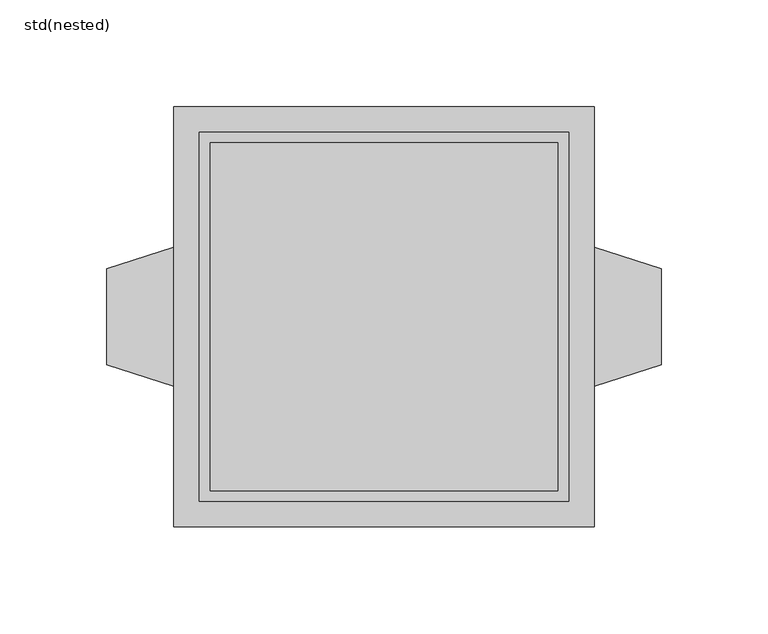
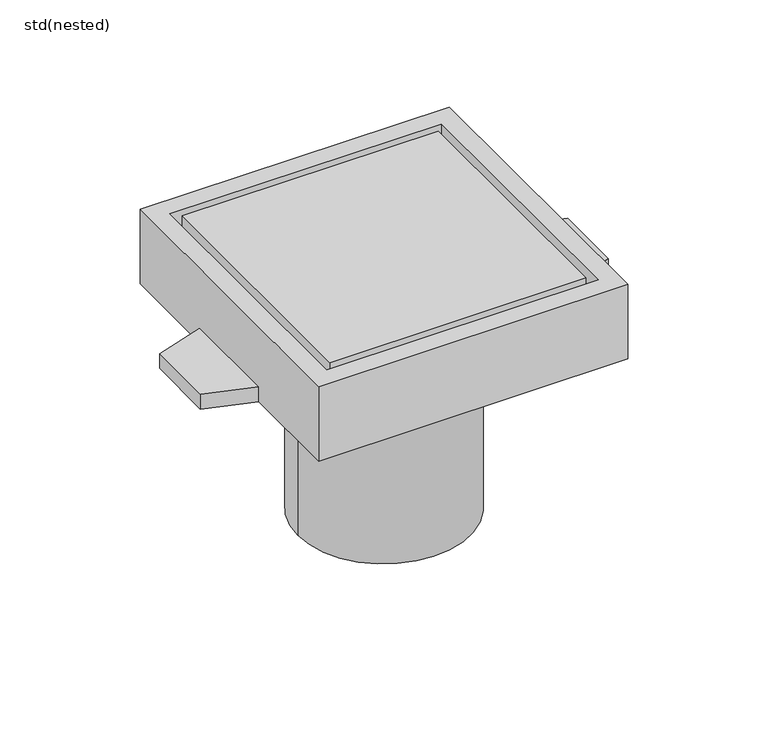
"""IFC4 building model written with IfcOpenShell, lengths in millimetres: sanitary terminal geometry, ZZZ_do not use_PF_ST_Finor castiron square_ACO : std(nested)."""

from ifc_helpers import new_model, si_unit, frame, origin, place, context, project, spatial, polyline, circle_curve, outline, extrude, source, transform, mapped, element, save
from ifc_brep_helpers import plane_surface, cylinder_surface, revolved_surface, advanced_brep


def std_nested_2815c56d(model_context):
    return source(origin(), model_context, "Body", "SolidModel", [
        extrude(outline(polyline([(81.5, 81.5), (81.5, -81.5), (-81.5, -81.5), (-81.5, 81.5), (81.5, 81.5)])), frame((0.0, 0.0, -22.0), z_axis=(0.0, 0.0, 1.0), x_axis=(1.0, 0.0, 0.0)), (0.0, 0.0, 1.0), 22.0),
        advanced_brep(
        [(98.5, -98.5, -50.0), (-98.5, -98.5, -50.0), (-98.5, -32.5, -50.0), (-130.0, -22.5, -50.0), (-130.0, 22.5, -50.0), (-98.5, 32.5, -50.0), (-98.5, 98.5, -50.0), (98.5, 98.5, -50.0), (98.5, 32.5, -50.0), (130.0, 22.5, -50.0), (130.0, -22.5, -50.0), (98.5, -32.5, -50.0), (55.0, 0.0, -50.0), (-55.0, 0.0, -50.0), (-50.0, 0.0, -50.0), (50.0, 0.0, -50.0), (98.5, 98.5, 0.0), (-98.5, 98.5, 0.0), (-98.5, -98.5, 0.0), (98.5, -98.5, 0.0), (-86.5, 86.5, 0.0), (86.5, 86.5, 0.0), (86.5, -86.5, 0.0), (-86.5, -86.5, 0.0), (-98.5, 32.5, -40.0), (-98.5, -32.5, -40.0), (98.5, -32.5, -40.0), (98.5, 32.5, -40.0), (-130.0, 22.5, -40.0), (-130.0, -22.5, -40.0), (130.0, 22.5, -40.0), (130.0, -22.5, -40.0), (-55.0, 0.0, -175.0), (55.0, 0.0, -175.0), (-50.0, 0.0, -175.0), (50.0, 0.0, -175.0), (86.5, 86.5, -40.0), (-86.5, 86.5, -40.0), (-86.5, -86.5, -40.0), (86.5, -86.5, -40.0), (-81.5, 81.5, -40.0), (81.5, 81.5, -40.0), (81.5, -81.5, -40.0), (-81.5, -81.5, -40.0), (-81.5, 81.5, -22.0), (81.5, 81.5, -22.0), (81.5, -81.5, -22.0), (-81.5, -81.5, -22.0)],
        [
            (0, 1),
            (1, 2),
            (2, 3),
            (3, 4),
            (4, 5),
            (5, 6),
            (6, 7),
            (7, 8),
            (8, 9),
            (9, 10),
            (10, 11),
            (11, 0),
            (12, 13, circle_curve(frame((0.0, 0.0, -50.0), z_axis=(0.0, 0.0, 1.0), x_axis=(1.0, 0.0, 0.0)), 55.0)),
            (13, 12, circle_curve(frame((0.0, 0.0, -50.0), z_axis=(0.0, 0.0, 1.0), x_axis=(1.0, 0.0, 0.0)), 55.0)),
            (14, 15, circle_curve(frame((0.0, 0.0, -50.0), z_axis=(0.0, 0.0, -1.0), x_axis=(1.0, 0.0, 0.0)), 50.0)),
            (15, 14, circle_curve(frame((0.0, 0.0, -50.0), z_axis=(0.0, 0.0, -1.0), x_axis=(1.0, 0.0, 0.0)), 50.0)),
            (16, 17),
            (17, 18),
            (18, 19),
            (19, 16),
            (20, 21),
            (21, 22),
            (22, 23),
            (23, 20),
            (6, 17),
            (16, 7),
            (5, 24),
            (24, 25),
            (25, 2),
            (1, 18),
            (0, 19),
            (11, 26),
            (26, 27),
            (27, 8),
            (24, 28),
            (28, 29),
            (29, 25),
            (30, 27),
            (26, 31),
            (31, 30),
            (4, 28),
            (3, 29),
            (30, 9),
            (10, 31),
            (32, 33, circle_curve(frame((0.0, 0.0, -175.0), z_axis=(0.0, 0.0, -1.0), x_axis=(1.0, 0.0, 0.0)), 55.0)),
            (33, 32, circle_curve(frame((0.0, 0.0, -175.0), z_axis=(0.0, 0.0, -1.0), x_axis=(1.0, 0.0, 0.0)), 55.0)),
            (34, 35, circle_curve(frame((0.0, 0.0, -175.0), z_axis=(0.0, 0.0, 1.0), x_axis=(1.0, 0.0, 0.0)), 50.0)),
            (35, 34, circle_curve(frame((0.0, 0.0, -175.0), z_axis=(0.0, 0.0, 1.0), x_axis=(1.0, 0.0, 0.0)), 50.0)),
            (32, 13),
            (12, 33),
            (35, 15),
            (14, 34),
            (36, 37),
            (37, 38),
            (38, 39),
            (39, 36),
            (40, 41),
            (41, 42),
            (42, 43),
            (43, 40),
            (36, 21),
            (20, 37),
            (23, 38),
            (22, 39),
            (40, 44),
            (44, 45),
            (45, 41),
            (45, 46),
            (46, 42),
            (46, 47),
            (47, 43),
            (47, 44),
        ],
        [
            plane_surface(frame((-537.3468112, 98.5, -50.0), z_axis=(0.0, 0.0, -1.0), x_axis=(1.0, 0.0, 0.0))),
            plane_surface(frame((-537.3468112, 98.5, 0.0), z_axis=(0.0, 0.0, 1.0), x_axis=(-1.0, 0.0, 0.0))),
            plane_surface(frame((98.5, 98.5, 0.0), z_axis=(0.0, 1.0, 0.0), x_axis=(0.0, 0.0, -1.0))),
            plane_surface(frame((-98.5, 98.5, 0.0), z_axis=(-1.0, 0.0, 0.0), x_axis=(0.0, 0.0, -1.0))),
            plane_surface(frame((-98.5, -98.5, 0.0), z_axis=(0.0, -1.0, 0.0), x_axis=(0.0, 0.0, -1.0))),
            plane_surface(frame((98.5, -98.5, 0.0), z_axis=(1.0, 0.0, 0.0), x_axis=(0.0, 0.0, -1.0))),
            plane_surface(frame((-130.0, 22.5, -40.0), z_axis=(0.0, 0.0, 1.0), x_axis=(-0.953124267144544, -0.3025791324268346, 0.0))),
            plane_surface(frame((-98.5, 32.5, -40.0), z_axis=(-0.3025791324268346, 0.953124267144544, 0.0), x_axis=(0.0, 0.0, -1.0))),
            plane_surface(frame((-130.0, 22.5, -40.0), z_axis=(-1.0, 0.0, 0.0), x_axis=(0.0, 0.0, -1.0))),
            plane_surface(frame((-130.0, -22.5, -40.0), z_axis=(-0.302579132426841, -0.953124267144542, 0.0), x_axis=(0.0, 0.0, -1.0))),
            plane_surface(frame((130.0, 22.5, -40.0), z_axis=(0.30257913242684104, 0.953124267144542, 0.0), x_axis=(0.0, 0.0, -1.0))),
            plane_surface(frame((98.5, -32.5, -40.0), z_axis=(0.30257913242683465, -0.953124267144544, 0.0), x_axis=(0.0, 0.0, -1.0))),
            plane_surface(frame((130.0, -22.5, -40.0), z_axis=(1.0, 0.0, 0.0), x_axis=(0.0, 0.0, -1.0))),
            plane_surface(frame((55.0, 0.0, -175.0), z_axis=(0.0, 0.0, -1.0), x_axis=(0.0, -1.0, 0.0))),
            cylinder_surface(frame((0.0, 0.0, -175.0), z_axis=(0.0, 0.0, 1.0), x_axis=(1.0, 0.0, 0.0)), 55.0),
            revolved_surface(polyline([(50.0, 0.0, -175.0), (50.0, 0.0, -50.0)]), (0.0, 0.0, 0.0), (0.0, 0.0, -1.0)),
            plane_surface(frame((-86.8999291, 86.5, -40.0), z_axis=(0.0, 0.0, 1.0), x_axis=(1.0, 0.0, 0.0))),
            plane_surface(frame((86.5, 86.5, 0.0), z_axis=(0.0, -1.0, 0.0), x_axis=(0.0, 0.0, -1.0))),
            plane_surface(frame((-86.5, 86.5, 0.0), z_axis=(1.0, 0.0, 0.0), x_axis=(0.0, 0.0, -1.0))),
            plane_surface(frame((-86.5, -86.5, 0.0), z_axis=(0.0, 1.0, 0.0), x_axis=(0.0, 0.0, -1.0))),
            plane_surface(frame((86.5, -86.5, 0.0), z_axis=(-1.0, 0.0, 0.0), x_axis=(0.0, 0.0, -1.0))),
            plane_surface(frame((-81.5, 81.5, 0.0), z_axis=(0.0, 1.0, 0.0), x_axis=(0.0, 0.0, -1.0))),
            plane_surface(frame((81.5, 81.5, 0.0), z_axis=(1.0, 0.0, 0.0), x_axis=(0.0, 0.0, -1.0))),
            plane_surface(frame((81.5, -81.5, 0.0), z_axis=(0.0, -1.0, 0.0), x_axis=(0.0, 0.0, -1.0))),
            plane_surface(frame((-81.5, -81.5, 0.0), z_axis=(-1.0, 0.0, 0.0), x_axis=(0.0, 0.0, -1.0))),
            plane_surface(frame((-72.1892958, 81.5, -22.0), z_axis=(0.0, 0.0, 1.0), x_axis=(1.0, 0.0, 0.0))),
        ],
        [
            (0, [[1, 2, 3, 4, 5, 6, 7, 8, 9, 10, 11, 12], [13, 14]]),
            (0, [[15, 16]]),
            (1, [[17, 18, 19, 20], [21, 22, 23, 24]]),
            (2, [[-7, 25, -17, 26]]),
            (3, [[-18, -25, -6, 27, 28, 29, -2, 30]]),
            (4, [[-1, 31, -19, -30]]),
            (5, [[-20, -31, -12, 32, 33, 34, -8, -26]]),
            (6, [[35, 36, 37, -28]]),
            (6, [[38, -33, 39, 40]]),
            (7, [[-5, 41, -35, -27]]),
            (8, [[-4, 42, -36, -41]]),
            (9, [[-3, -29, -37, -42]]),
            (10, [[-9, -34, -38, 43]]),
            (11, [[-11, 44, -39, -32]]),
            (12, [[-10, -43, -40, -44]]),
            (13, [[45, 46], [47, 48]]),
            (14, [[-45, 49, -13, 50]]),
            (14, [[-46, -50, -14, -49]]),
            (15, [[-48, 51, -15, 52]]),
            (15, [[-47, -52, -16, -51]]),
            (16, [[53, 54, 55, 56], [57, 58, 59, 60]]),
            (17, [[-53, 61, -21, 62]]),
            (18, [[-54, -62, -24, 63]]),
            (19, [[-55, -63, -23, 64]]),
            (20, [[-56, -64, -22, -61]]),
            (21, [[-57, 65, 66, 67]]),
            (22, [[-58, -67, 68, 69]]),
            (23, [[-59, -69, 70, 71]]),
            (24, [[-60, -71, 72, -65]]),
            (25, [[-66, -72, -70, -68]]),
        ],
    ),
    ])


if __name__ == "__main__":
    model = new_model("IFC4")
    model_context = context("Model", 3, world=origin())
    ifc_project = project(units=[si_unit("LENGTHUNIT", "METRE", prefix="MILLI")], contexts=[model_context])
    site = spatial("IfcSite", under=ifc_project)
    building = spatial("IfcBuilding", under=site)
    placement = place(None, origin())
    std_nested_shape = std_nested_2815c56d(model_context)
    element("IfcSanitaryTerminal", 1, ObjectType="ZZZ_do not use_PF_ST_Finor castiron square_ACO : std(nested)", at=placement, inside=building, context=model_context, shape_type="MappedRepresentation", body=[
        mapped(std_nested_shape, transform((0.0, 0.0, 0.0), x_axis=(1.0, 0.0, 0.0), y_axis=(0.0, 1.0, 0.0), z_axis=(0.0, 0.0, 1.0))),
    ])
    save(model, "model.ifc")
